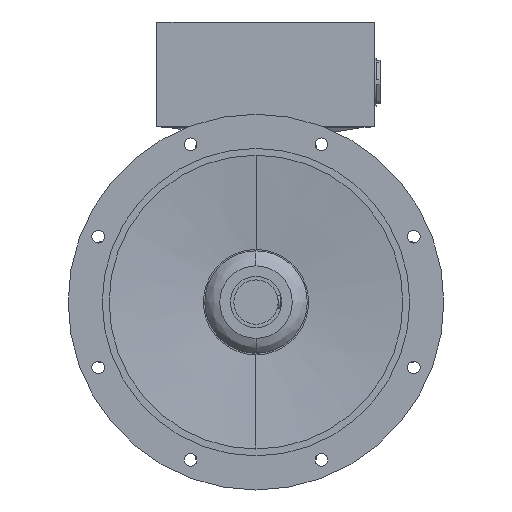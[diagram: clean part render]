
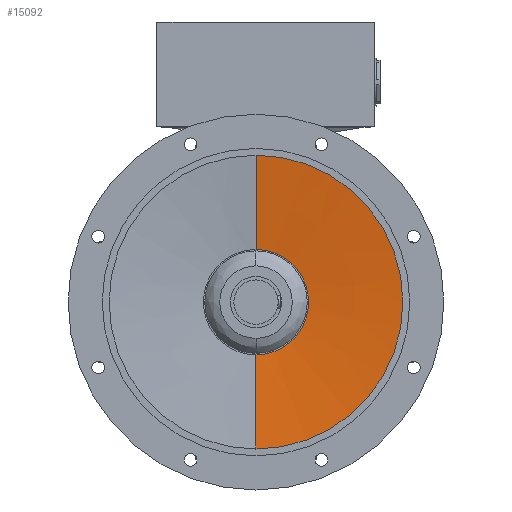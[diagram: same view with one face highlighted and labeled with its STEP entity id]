
A CAD part, left-side view. The second image highlights one B-rep face of the part: STEP entity #15092.
In plain terms, the highlighted conical face has half-angle 83.797 degrees and reference radius 215 mm.
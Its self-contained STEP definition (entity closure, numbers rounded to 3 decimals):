
#4034 = AXIS2_PLACEMENT_3D ( 'NONE', #21191, #21187, #21188 ) ;
#7132 = VERTEX_POINT ( 'NONE', #25584 ) ;
#7133 = VERTEX_POINT ( 'NONE', #25585 ) ;
#7135 = VERTEX_POINT ( 'NONE', #25587 ) ;
#10037 = CARTESIAN_POINT ( 'NONE',  ( -95., 0., 0. ) ) ;
#10038 = DIRECTION ( 'NONE',  ( -1., 0., 0. ) ) ;
#10039 = DIRECTION ( 'NONE',  ( 0., 0., 1. ) ) ;
#10041 = DIRECTION ( 'NONE',  ( -0.108, 0., -0.994 ) ) ;
#10045 = CARTESIAN_POINT ( 'NONE',  ( -95., 0., -215. ) ) ;
#10048 = CARTESIAN_POINT ( 'NONE',  ( -80., 0., 0. ) ) ;
#10049 = DIRECTION ( 'NONE',  ( -1., 0., 0. ) ) ;
#10050 = DIRECTION ( 'NONE',  ( 0., 0., 1. ) ) ;
#10051 = CARTESIAN_POINT ( 'NONE',  ( -95., 0., 215. ) ) ;
#10052 = DIRECTION ( 'NONE',  ( -0.108, 0., 0.994 ) ) ;
#12090 = FACE_OUTER_BOUND ( 'NONE', #30663, .T. ) ;
#12104 = CONICAL_SURFACE ( 'NONE', #4034, 215., 1.463 ) ;
#15092 = ADVANCED_FACE ( 'NONE', ( #12090 ), #12104, .F. ) ;
#16058 = EDGE_CURVE ( 'NONE', #27443, #7133, #23488, .T. ) ;
#16062 = EDGE_CURVE ( 'NONE', #7132, #7135, #23491, .T. ) ;
#16063 = EDGE_CURVE ( 'NONE', #7132, #27443, #23496, .T. ) ;
#16064 = EDGE_CURVE ( 'NONE', #7135, #7133, #23497, .T. ) ;
#21187 = DIRECTION ( 'NONE',  ( -1., 0., 0. ) ) ;
#21188 = DIRECTION ( 'NONE',  ( 0., 0., 1. ) ) ;
#21191 = CARTESIAN_POINT ( 'NONE',  ( -95., 0., 0. ) ) ;
#23197 = AXIS2_PLACEMENT_3D ( 'NONE', #10037, #10038, #10039 ) ;
#23199 = AXIS2_PLACEMENT_3D ( 'NONE', #10048, #10049, #10050 ) ;
#23488 = CIRCLE ( 'NONE', #23197, 215. ) ;
#23491 = CIRCLE ( 'NONE', #23199, 77. ) ;
#23496 = LINE ( 'NONE', #10045, #23498 ) ;
#23497 = LINE ( 'NONE', #10051, #23500 ) ;
#23498 = VECTOR ( 'NONE', #10041, 1000. ) ;
#23500 = VECTOR ( 'NONE', #10052, 1000. ) ;
#25584 = CARTESIAN_POINT ( 'NONE',  ( -80., 0., -77. ) ) ;
#25585 = CARTESIAN_POINT ( 'NONE',  ( -95., 0., 215. ) ) ;
#25587 = CARTESIAN_POINT ( 'NONE',  ( -80., 0., 77. ) ) ;
#26797 = CARTESIAN_POINT ( 'NONE',  ( -95., 0., -215. ) ) ;
#27443 = VERTEX_POINT ( 'NONE', #26797 ) ;
#27623 = ORIENTED_EDGE ( 'NONE', *, *, #16062, .F. ) ;
#27624 = ORIENTED_EDGE ( 'NONE', *, *, #16063, .T. ) ;
#27625 = ORIENTED_EDGE ( 'NONE', *, *, #16058, .T. ) ;
#27626 = ORIENTED_EDGE ( 'NONE', *, *, #16064, .F. ) ;
#30663 = EDGE_LOOP ( 'NONE', ( #27623, #27624, #27625, #27626 ) ) ;
